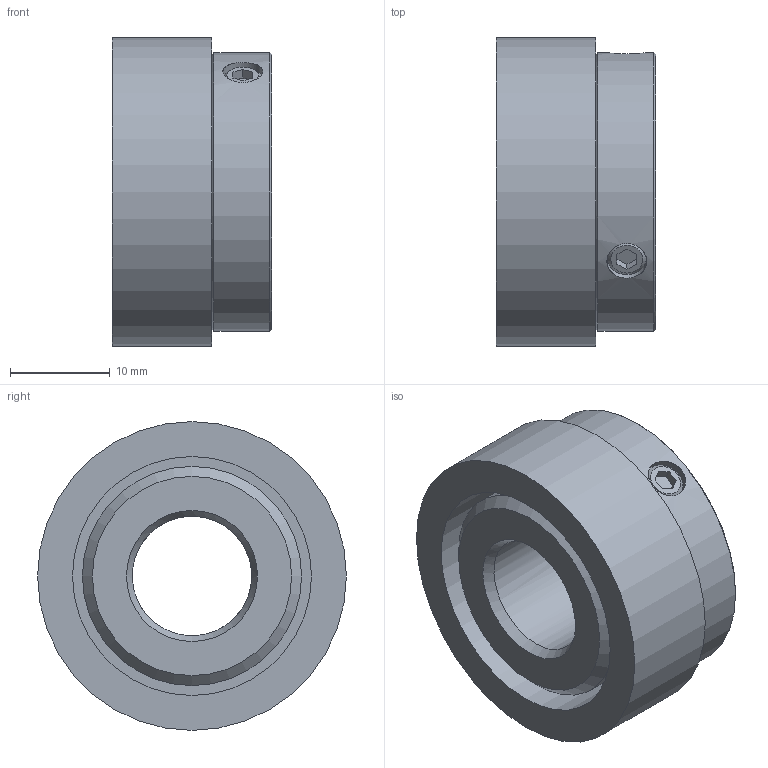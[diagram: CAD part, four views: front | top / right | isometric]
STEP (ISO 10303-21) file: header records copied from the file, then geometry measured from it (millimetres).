
FILE_DESCRIPTION (( 'STEP AP203' ), '1' );
FILE_NAME ('8.RI20.031.1200.111.STEP', '2013-07-30T11:22:12', ( 'Hodot' ), ( '' ), 'SwSTEP 2.0', 'SolidWorks 2012', '' );
FILE_SCHEMA (( 'CONFIG_CONTROL_DESIGN' ));
Length unit declared in the file: millimetre
Products named in the file (1): 8.RI20.031.1200.111
Bounding box: 16 x 31 x 31 mm (x, y, z)
Volume: 8402 mm3; surface area: 5382.2 mm2
Topology: 4 solids, 4 shells, 49 faces, 107 edges, 70 vertices
Faces by surface type: plane 26, cylinder 15, cone 8
Full cylindrical faces by diameter (mm): 2.5 x2, 4 x4, 12 x1, 22 x1, 24 x1, 28 x1, 31 x1
Entity records: 1465 total; most frequent: CARTESIAN_POINT 420, DIRECTION 200, ORIENTED_EDGE 160, AXIS2_PLACEMENT_3D 82, EDGE_LOOP 80, EDGE_CURVE 80, VERTEX_POINT 62, FACE_OUTER_BOUND 60
